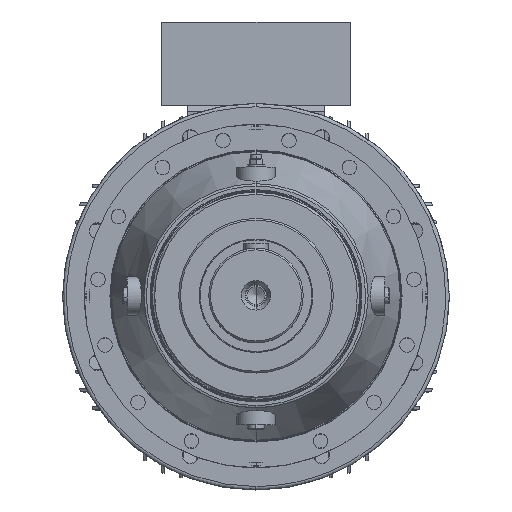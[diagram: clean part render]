
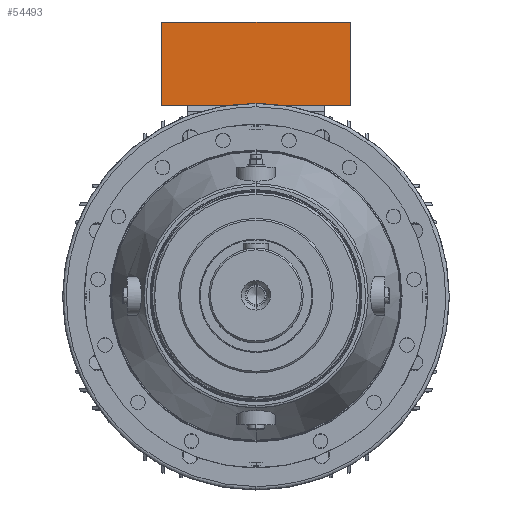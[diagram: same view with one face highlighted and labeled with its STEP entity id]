
A CAD part, top view. The second image highlights one B-rep face of the part: STEP entity #54493.
In plain terms, the highlighted planar face has unit normal (0, 0, 1).
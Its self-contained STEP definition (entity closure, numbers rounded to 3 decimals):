
#20046 = ORIENTED_EDGE ( 'NONE', *, *, #33493, .T. ) ;
#20072 = ORIENTED_EDGE ( 'NONE', *, *, #33498, .F. ) ;
#20083 = ORIENTED_EDGE ( 'NONE', *, *, #33524, .F. ) ;
#20094 = ORIENTED_EDGE ( 'NONE', *, *, #33522, .F. ) ;
#24468 = LINE ( 'NONE', #30879, #24469 ) ;
#24469 = VECTOR ( 'NONE', #30895, 1000. ) ;
#24475 = VECTOR ( 'NONE', #32019, 1000. ) ;
#24478 = LINE ( 'NONE', #31967, #24484 ) ;
#24484 = VECTOR ( 'NONE', #32056, 1000. ) ;
#24496 = LINE ( 'NONE', #31839, #24475 ) ;
#24504 = LINE ( 'NONE', #30865, #24505 ) ;
#24505 = VECTOR ( 'NONE', #30896, 1000. ) ;
#28392 = AXIS2_PLACEMENT_3D ( 'NONE', #67070, #67072, #67034 ) ;
#29895 = CARTESIAN_POINT ( 'NONE',  ( -110., 223., -14.5 ) ) ;
#30033 = CARTESIAN_POINT ( 'NONE',  ( -110., 320., -14.5 ) ) ;
#30057 = CARTESIAN_POINT ( 'NONE',  ( 110., 320., -14.5 ) ) ;
#30135 = CARTESIAN_POINT ( 'NONE',  ( 110., 223., -14.5 ) ) ;
#30865 = CARTESIAN_POINT ( 'NONE',  ( -110., 320., -14.5 ) ) ;
#30879 = CARTESIAN_POINT ( 'NONE',  ( 110., 320., -14.5 ) ) ;
#30895 = DIRECTION ( 'NONE',  ( 0., -1., 0. ) ) ;
#30896 = DIRECTION ( 'NONE',  ( 0., 1., 0. ) ) ;
#31839 = CARTESIAN_POINT ( 'NONE',  ( 110., 223., -14.5 ) ) ;
#31967 = CARTESIAN_POINT ( 'NONE',  ( 110., 320., -14.5 ) ) ;
#32019 = DIRECTION ( 'NONE',  ( 1., 0., 0. ) ) ;
#32056 = DIRECTION ( 'NONE',  ( 1., 0., 0. ) ) ;
#33493 = EDGE_CURVE ( 'NONE', #82457, #82534, #24496, .T. ) ;
#33498 = EDGE_CURVE ( 'NONE', #82494, #82473, #24478, .T. ) ;
#33522 = EDGE_CURVE ( 'NONE', #82473, #82534, #24468, .T. ) ;
#33524 = EDGE_CURVE ( 'NONE', #82457, #82494, #24504, .T. ) ;
#51841 = FACE_OUTER_BOUND ( 'NONE', #61491, .T. ) ;
#54493 = ADVANCED_FACE ( 'NONE', ( #51841 ), #67062, .F. ) ;
#61491 = EDGE_LOOP ( 'NONE', ( #20072, #20083, #20046, #20094 ) ) ;
#67034 = DIRECTION ( 'NONE',  ( -1., 0., 0. ) ) ;
#67062 = PLANE ( 'NONE',  #28392 ) ;
#67070 = CARTESIAN_POINT ( 'NONE',  ( 110., 320., -14.5 ) ) ;
#67072 = DIRECTION ( 'NONE',  ( 0., 0., -1. ) ) ;
#82457 = VERTEX_POINT ( 'NONE', #29895 ) ;
#82473 = VERTEX_POINT ( 'NONE', #30057 ) ;
#82494 = VERTEX_POINT ( 'NONE', #30033 ) ;
#82534 = VERTEX_POINT ( 'NONE', #30135 ) ;
